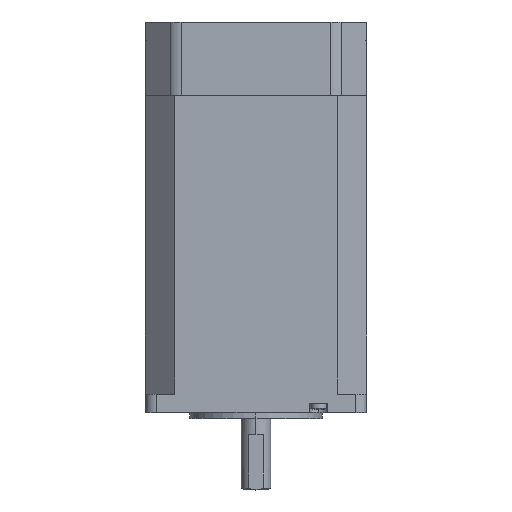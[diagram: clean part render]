
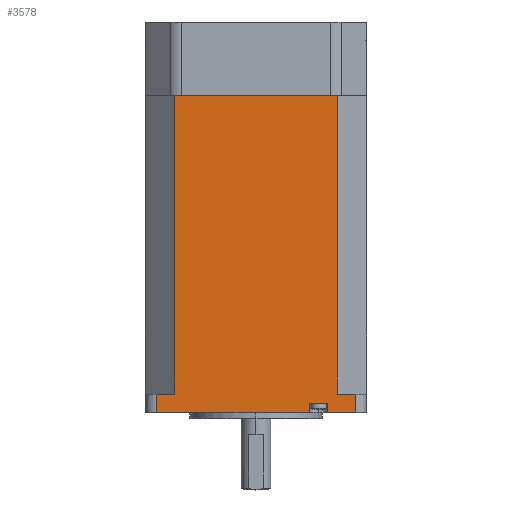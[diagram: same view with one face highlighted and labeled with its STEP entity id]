
A CAD part, top view. The second image highlights one B-rep face of the part: STEP entity #3578.
In plain terms, the highlighted planar face has unit normal (0, 0, 1).
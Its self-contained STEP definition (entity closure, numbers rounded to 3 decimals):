
#160 = LINE ( 'NONE', #8590, #1388 ) ;
#162 = VERTEX_POINT ( 'NONE', #3669 ) ;
#218 = CARTESIAN_POINT ( 'NONE',  ( 10.447, -36.491, 37.965 ) ) ;
#252 = CARTESIAN_POINT ( 'NONE',  ( 17.947, -36.491, 37.965 ) ) ;
#337 = EDGE_CURVE ( 'NONE', #8861, #9668, #6055, .T. ) ;
#341 = VERTEX_POINT ( 'NONE', #8680 ) ;
#376 = VERTEX_POINT ( 'NONE', #4799 ) ;
#468 = DIRECTION ( 'NONE',  ( 1., 0., 0. ) ) ;
#472 = CARTESIAN_POINT ( 'NONE',  ( -39.053, 49.509, 37.965 ) ) ;
#505 = CARTESIAN_POINT ( 'NONE',  ( 5.447, -33.991, 37.965 ) ) ;
#572 = ORIENTED_EDGE ( 'NONE', *, *, #8902, .F. ) ;
#592 = ORIENTED_EDGE ( 'NONE', *, *, #8764, .T. ) ;
#746 = DIRECTION ( 'NONE',  ( 0., -1., 0. ) ) ;
#792 = VERTEX_POINT ( 'NONE', #4330 ) ;
#1032 = CARTESIAN_POINT ( 'NONE',  ( -39.053, 49.509, 37.965 ) ) ;
#1120 = DIRECTION ( 'NONE',  ( 0., -1., 0. ) ) ;
#1333 = CARTESIAN_POINT ( 'NONE',  ( -31.053, -31.491, 37.965 ) ) ;
#1364 = DIRECTION ( 'NONE',  ( 0., 1., 0. ) ) ;
#1388 = VECTOR ( 'NONE', #5462, 1000. ) ;
#1403 = VECTOR ( 'NONE', #468, 1000. ) ;
#1462 = VERTEX_POINT ( 'NONE', #8965 ) ;
#1941 = VERTEX_POINT ( 'NONE', #8418 ) ;
#2103 = EDGE_CURVE ( 'NONE', #162, #5346, #7937, .T. ) ;
#2263 = DIRECTION ( 'NONE',  ( -1., 0., 0. ) ) ;
#2311 = DIRECTION ( 'NONE',  ( 0., 0., -1. ) ) ;
#2336 = EDGE_CURVE ( 'NONE', #7645, #5346, #7912, .T. ) ;
#2471 = DIRECTION ( 'NONE',  ( 0., 1., 0. ) ) ;
#2592 = LINE ( 'NONE', #1032, #2981 ) ;
#2712 = CARTESIAN_POINT ( 'NONE',  ( -39.053, -36.491, 37.965 ) ) ;
#2805 = VECTOR ( 'NONE', #6480, 1000. ) ;
#2861 = CARTESIAN_POINT ( 'NONE',  ( -31.053, -47.805, 37.965 ) ) ;
#2960 = VECTOR ( 'NONE', #4390, 1000. ) ;
#2981 = VECTOR ( 'NONE', #7080, 1000. ) ;
#3067 = LINE ( 'NONE', #3805, #7547 ) ;
#3086 = CARTESIAN_POINT ( 'NONE',  ( -39.053, -36.491, 37.965 ) ) ;
#3340 = CARTESIAN_POINT ( 'NONE',  ( 5.447, -33.991, 37.965 ) ) ;
#3410 = VECTOR ( 'NONE', #4268, 1000. ) ;
#3416 = FACE_OUTER_BOUND ( 'NONE', #5744, .T. ) ;
#3512 = CARTESIAN_POINT ( 'NONE',  ( 5.447, -33.991, 37.965 ) ) ;
#3578 = ADVANCED_FACE ( 'NONE', ( #3416 ), #6440, .F. ) ;
#3669 = CARTESIAN_POINT ( 'NONE',  ( -36.053, -36.491, 37.965 ) ) ;
#3805 = CARTESIAN_POINT ( 'NONE',  ( 12.947, -47.805, 37.965 ) ) ;
#4012 = EDGE_CURVE ( 'NONE', #792, #1462, #160, .T. ) ;
#4268 = DIRECTION ( 'NONE',  ( 0., -1., 0. ) ) ;
#4330 = CARTESIAN_POINT ( 'NONE',  ( 17.947, -31.491, 37.965 ) ) ;
#4390 = DIRECTION ( 'NONE',  ( 0., -1., 0. ) ) ;
#4786 = ORIENTED_EDGE ( 'NONE', *, *, #4012, .T. ) ;
#4799 = CARTESIAN_POINT ( 'NONE',  ( 10.447, -33.991, 37.965 ) ) ;
#4921 = LINE ( 'NONE', #505, #7413 ) ;
#5000 = VECTOR ( 'NONE', #746, 1000. ) ;
#5077 = EDGE_CURVE ( 'NONE', #792, #9668, #7956, .T. ) ;
#5117 = CARTESIAN_POINT ( 'NONE',  ( -36.053, 54.21, 37.965 ) ) ;
#5218 = LINE ( 'NONE', #2861, #8974 ) ;
#5346 = VERTEX_POINT ( 'NONE', #6196 ) ;
#5462 = DIRECTION ( 'NONE',  ( -1., 0., 0. ) ) ;
#5744 = EDGE_LOOP ( 'NONE', ( #6761, #6331, #572, #8455, #7811, #7708, #4786, #6579, #6611, #7920, #7417, #592 ) ) ;
#5761 = CARTESIAN_POINT ( 'NONE',  ( -39.053, -31.491, 37.965 ) ) ;
#6055 = LINE ( 'NONE', #3086, #7541 ) ;
#6107 = DIRECTION ( 'NONE',  ( 1., 0., 0. ) ) ;
#6196 = CARTESIAN_POINT ( 'NONE',  ( 5.447, -36.491, 37.965 ) ) ;
#6331 = ORIENTED_EDGE ( 'NONE', *, *, #2336, .F. ) ;
#6407 = CARTESIAN_POINT ( 'NONE',  ( 17.947, 54.21, 37.965 ) ) ;
#6440 = PLANE ( 'NONE',  #8671 ) ;
#6480 = DIRECTION ( 'NONE',  ( -1., 0., 0. ) ) ;
#6579 = ORIENTED_EDGE ( 'NONE', *, *, #8704, .T. ) ;
#6611 = ORIENTED_EDGE ( 'NONE', *, *, #7775, .F. ) ;
#6634 = LINE ( 'NONE', #5117, #2960 ) ;
#6761 = ORIENTED_EDGE ( 'NONE', *, *, #2103, .T. ) ;
#6862 = CARTESIAN_POINT ( 'NONE',  ( 12.947, 49.509, 37.965 ) ) ;
#7080 = DIRECTION ( 'NONE',  ( 1., 0., 0. ) ) ;
#7413 = VECTOR ( 'NONE', #8853, 1000. ) ;
#7417 = ORIENTED_EDGE ( 'NONE', *, *, #9477, .T. ) ;
#7462 = LINE ( 'NONE', #9663, #5000 ) ;
#7541 = VECTOR ( 'NONE', #6107, 1000. ) ;
#7547 = VECTOR ( 'NONE', #2471, 1000. ) ;
#7645 = VERTEX_POINT ( 'NONE', #3512 ) ;
#7684 = VERTEX_POINT ( 'NONE', #6862 ) ;
#7708 = ORIENTED_EDGE ( 'NONE', *, *, #5077, .F. ) ;
#7775 = EDGE_CURVE ( 'NONE', #341, #7684, #2592, .T. ) ;
#7811 = ORIENTED_EDGE ( 'NONE', *, *, #337, .T. ) ;
#7912 = LINE ( 'NONE', #3340, #7992 ) ;
#7920 = ORIENTED_EDGE ( 'NONE', *, *, #8759, .F. ) ;
#7937 = LINE ( 'NONE', #2712, #1403 ) ;
#7956 = LINE ( 'NONE', #6407, #3410 ) ;
#7970 = LINE ( 'NONE', #5761, #2805 ) ;
#7992 = VECTOR ( 'NONE', #1120, 1000. ) ;
#8418 = CARTESIAN_POINT ( 'NONE',  ( -36.053, -31.491, 37.965 ) ) ;
#8455 = ORIENTED_EDGE ( 'NONE', *, *, #8749, .T. ) ;
#8574 = VERTEX_POINT ( 'NONE', #1333 ) ;
#8590 = CARTESIAN_POINT ( 'NONE',  ( 12.947, -31.491, 37.965 ) ) ;
#8671 = AXIS2_PLACEMENT_3D ( 'NONE', #472, #2311, #2263 ) ;
#8680 = CARTESIAN_POINT ( 'NONE',  ( -31.053, 49.509, 37.965 ) ) ;
#8704 = EDGE_CURVE ( 'NONE', #1462, #7684, #3067, .T. ) ;
#8749 = EDGE_CURVE ( 'NONE', #376, #8861, #7462, .T. ) ;
#8759 = EDGE_CURVE ( 'NONE', #8574, #341, #5218, .T. ) ;
#8764 = EDGE_CURVE ( 'NONE', #1941, #162, #6634, .T. ) ;
#8853 = DIRECTION ( 'NONE',  ( -1., 0., 0. ) ) ;
#8861 = VERTEX_POINT ( 'NONE', #218 ) ;
#8902 = EDGE_CURVE ( 'NONE', #376, #7645, #4921, .T. ) ;
#8965 = CARTESIAN_POINT ( 'NONE',  ( 12.947, -31.491, 37.965 ) ) ;
#8974 = VECTOR ( 'NONE', #1364, 1000. ) ;
#9477 = EDGE_CURVE ( 'NONE', #8574, #1941, #7970, .T. ) ;
#9663 = CARTESIAN_POINT ( 'NONE',  ( 10.447, -33.991, 37.965 ) ) ;
#9668 = VERTEX_POINT ( 'NONE', #252 ) ;
